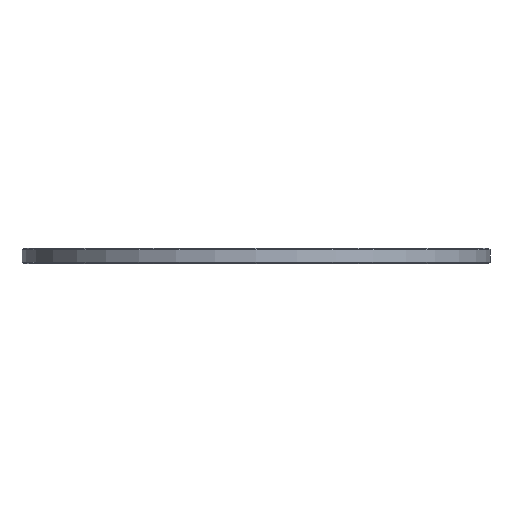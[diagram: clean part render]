
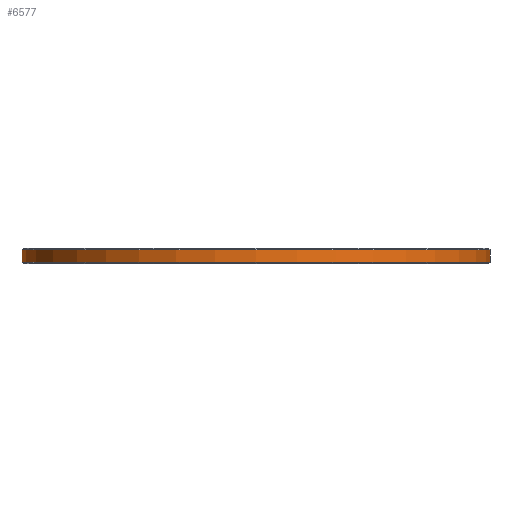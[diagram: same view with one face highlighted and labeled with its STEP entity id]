
A CAD part, front view. The second image highlights one B-rep face of the part: STEP entity #6577.
In plain terms, the highlighted cylindrical face has radius 48.438 mm (diameter 96.875 mm), a full revolution.
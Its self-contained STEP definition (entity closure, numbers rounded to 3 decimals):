
#80=CYLINDRICAL_SURFACE('',#7005,48.438);
#672=FACE_OUTER_BOUND('',#1063,.T.);
#1063=EDGE_LOOP('',(#6063,#6064,#6065,#6066));
#1172=CIRCLE('',#7004,48.438);
#1173=CIRCLE('',#7006,48.438);
#1986=LINE('',#10508,#2813);
#2813=VECTOR('',#8611,48.438);
#3418=VERTEX_POINT('',#10502);
#3419=VERTEX_POINT('',#10506);
#4303=EDGE_CURVE('',#3418,#3418,#1172,.T.);
#4305=EDGE_CURVE('',#3419,#3419,#1173,.T.);
#4306=EDGE_CURVE('',#3419,#3418,#1986,.T.);
#6063=ORIENTED_EDGE('',*,*,#4305,.F.);
#6064=ORIENTED_EDGE('',*,*,#4306,.T.);
#6065=ORIENTED_EDGE('',*,*,#4303,.F.);
#6066=ORIENTED_EDGE('',*,*,#4306,.F.);
#6577=ADVANCED_FACE('',(#672),#80,.T.);
#7004=AXIS2_PLACEMENT_3D('',#10503,#8604,#8605);
#7005=AXIS2_PLACEMENT_3D('',#10505,#8607,#8608);
#7006=AXIS2_PLACEMENT_3D('',#10507,#8609,#8610);
#8604=DIRECTION('center_axis',(0.,0.,-1.));
#8605=DIRECTION('ref_axis',(1.,0.,0.));
#8607=DIRECTION('center_axis',(0.,0.,1.));
#8608=DIRECTION('ref_axis',(1.,0.,0.));
#8609=DIRECTION('center_axis',(0.,0.,1.));
#8610=DIRECTION('ref_axis',(1.,0.,0.));
#8611=DIRECTION('',(0.,0.,-1.));
#10502=CARTESIAN_POINT('',(-48.438,0.,0.3));
#10503=CARTESIAN_POINT('Origin',(0.,0.,0.3));
#10505=CARTESIAN_POINT('Origin',(0.,0.,0.));
#10506=CARTESIAN_POINT('',(-48.438,0.,2.825));
#10507=CARTESIAN_POINT('Origin',(0.,0.,2.825));
#10508=CARTESIAN_POINT('',(-48.438,0.,0.));
